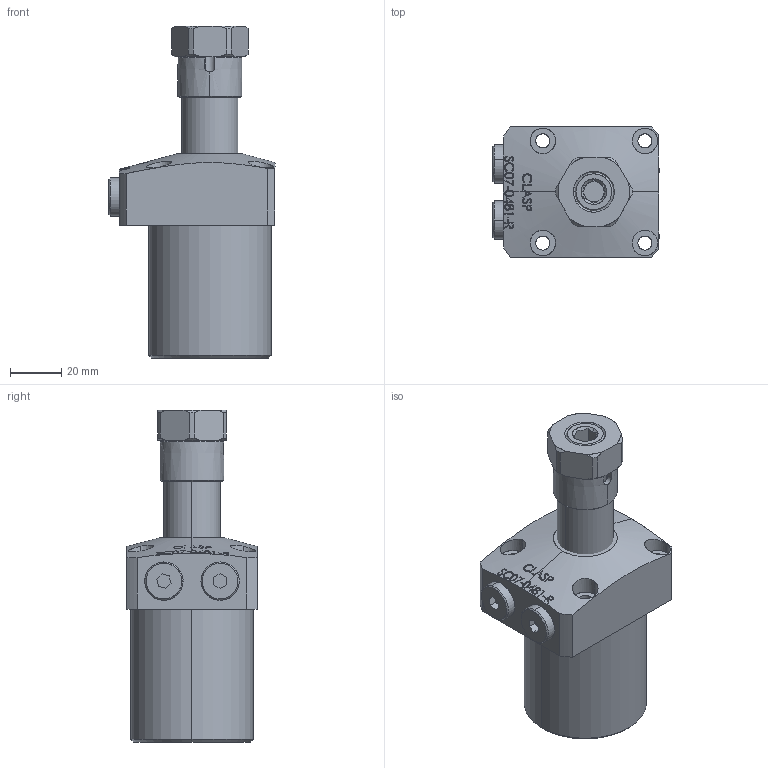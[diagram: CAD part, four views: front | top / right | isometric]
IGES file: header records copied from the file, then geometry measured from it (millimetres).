
Start section: SolidWorks IGES file using analytic representation for surfaces
Global section: file name: D:\karuppas\Clasp\3D model\SWING CYLINDER\Top Mounting swing cylinder\SC07-0481-R\SC07-0481-R.IGS; native system: SolidWorks 2017; preprocessor: SolidWorks 2017; author: pc; date: 220705.232057; units: millimetre
Bounding box: 65 x 51 x 130 mm (x, y, z)
Surface area: 35045.5 mm2 (no closed solid volume)
Topology: 0 solids, 0 shells, 372 faces, 6155 edges, 6154 vertices
Faces by surface type: bspline 256, revolution 116
